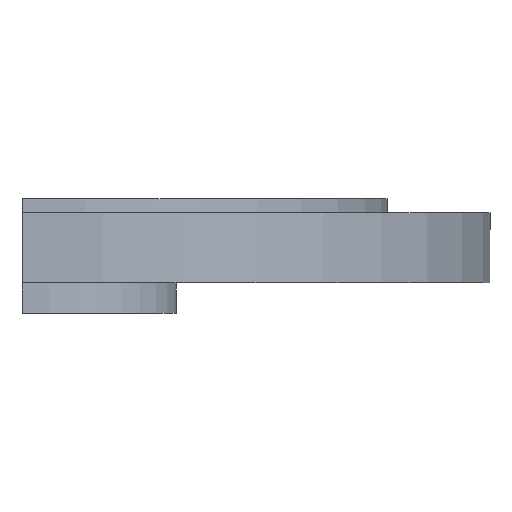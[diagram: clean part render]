
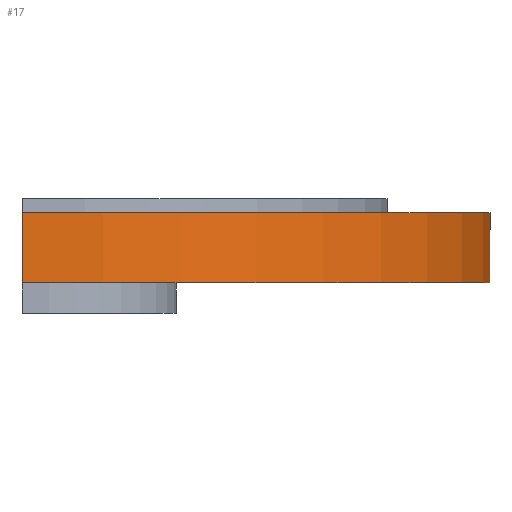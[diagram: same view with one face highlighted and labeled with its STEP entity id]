
A CAD part, front view. The second image highlights one B-rep face of the part: STEP entity #17.
In plain terms, the highlighted cylindrical face has radius 20 mm (diameter 40 mm), a partial arc.
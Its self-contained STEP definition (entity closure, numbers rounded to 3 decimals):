
#17 = ADVANCED_FACE('',(#18),#32,.T.);
#18 = FACE_BOUND('',#19,.T.);
#19 = EDGE_LOOP('',(#20,#53,#86,#112));
#20 = ORIENTED_EDGE('',*,*,#21,.T.);
#21 = EDGE_CURVE('',#22,#24,#26,.T.);
#22 = VERTEX_POINT('',#23);
#23 = CARTESIAN_POINT('',(0.,20.,-3.));
#24 = VERTEX_POINT('',#25);
#25 = CARTESIAN_POINT('',(0.,20.,0.));
#26 = SURFACE_CURVE('',#27,(#31,#42),.PCURVE_S1.);
#27 = LINE('',#28,#29);
#28 = CARTESIAN_POINT('',(0.,20.,-3.));
#29 = VECTOR('',#30,1.);
#30 = DIRECTION('',(0.,0.,1.));
#31 = PCURVE('',#32,#37);
#32 = CYLINDRICAL_SURFACE('',#33,20.);
#33 = AXIS2_PLACEMENT_3D('',#34,#35,#36);
#34 = CARTESIAN_POINT('',(0.,0.,-3.));
#35 = DIRECTION('',(0.,0.,1.));
#36 = DIRECTION('',(1.,0.,-0.));
#37 = DEFINITIONAL_REPRESENTATION('',(#38),#41);
#38 = B_SPLINE_CURVE_WITH_KNOTS('',1,(#39,#40),.UNSPECIFIED.,.F.,.F.,(2,
    2),(0.,3.),.PIECEWISE_BEZIER_KNOTS.);
#39 = CARTESIAN_POINT('',(7.854,0.));
#40 = CARTESIAN_POINT('',(7.854,3.));
#41 = ( GEOMETRIC_REPRESENTATION_CONTEXT(2) 
PARAMETRIC_REPRESENTATION_CONTEXT() REPRESENTATION_CONTEXT('2D SPACE',''
  ) );
#42 = PCURVE('',#43,#48);
#43 = PLANE('',#44);
#44 = AXIS2_PLACEMENT_3D('',#45,#46,#47);
#45 = CARTESIAN_POINT('',(0.,-50.,-50.));
#46 = DIRECTION('',(1.,0.,0.));
#47 = DIRECTION('',(0.,0.,1.));
#48 = DEFINITIONAL_REPRESENTATION('',(#49),#52);
#49 = B_SPLINE_CURVE_WITH_KNOTS('',1,(#50,#51),.UNSPECIFIED.,.F.,.F.,(2,
    2),(0.,3.),.PIECEWISE_BEZIER_KNOTS.);
#50 = CARTESIAN_POINT('',(47.,-70.));
#51 = CARTESIAN_POINT('',(50.,-70.));
#52 = ( GEOMETRIC_REPRESENTATION_CONTEXT(2) 
PARAMETRIC_REPRESENTATION_CONTEXT() REPRESENTATION_CONTEXT('2D SPACE',''
  ) );
#53 = ORIENTED_EDGE('',*,*,#54,.T.);
#54 = EDGE_CURVE('',#24,#55,#57,.T.);
#55 = VERTEX_POINT('',#56);
#56 = CARTESIAN_POINT('',(0.,-20.,0.));
#57 = SURFACE_CURVE('',#58,(#63,#70),.PCURVE_S1.);
#58 = CIRCLE('',#59,20.);
#59 = AXIS2_PLACEMENT_3D('',#60,#61,#62);
#60 = CARTESIAN_POINT('',(0.,0.,0.));
#61 = DIRECTION('',(0.,0.,-1.));
#62 = DIRECTION('',(-0.503,0.864,0.));
#63 = PCURVE('',#32,#64);
#64 = DEFINITIONAL_REPRESENTATION('',(#65),#69);
#65 = LINE('',#66,#67);
#66 = CARTESIAN_POINT('',(8.381,3.));
#67 = VECTOR('',#68,1.);
#68 = DIRECTION('',(-1.,-0.));
#69 = ( GEOMETRIC_REPRESENTATION_CONTEXT(2) 
PARAMETRIC_REPRESENTATION_CONTEXT() REPRESENTATION_CONTEXT('2D SPACE',''
  ) );
#70 = PCURVE('',#71,#76);
#71 = PLANE('',#72);
#72 = AXIS2_PLACEMENT_3D('',#73,#74,#75);
#73 = CARTESIAN_POINT('',(0.,0.,0.));
#74 = DIRECTION('',(0.,0.,1.));
#75 = DIRECTION('',(1.,0.,-0.));
#76 = DEFINITIONAL_REPRESENTATION('',(#77),#85);
#77 = ( BOUNDED_CURVE() B_SPLINE_CURVE(2,(#78,#79,#80,#81,#82,#83,#84),
.UNSPECIFIED.,.T.,.F.) B_SPLINE_CURVE_WITH_KNOTS((1,2,2,2,2,1),(
    -2.094,0.,2.094,4.189,6.283,
8.378),.UNSPECIFIED.) CURVE() GEOMETRIC_REPRESENTATION_ITEM() 
RATIONAL_B_SPLINE_CURVE((1.,0.5,1.,0.5,1.,0.5,1.)) REPRESENTATION_ITEM(
  '') );
#78 = CARTESIAN_POINT('',(-10.065,17.283));
#79 = CARTESIAN_POINT('',(19.87,34.716));
#80 = CARTESIAN_POINT('',(20.,0.075));
#81 = CARTESIAN_POINT('',(20.13,-34.566));
#82 = CARTESIAN_POINT('',(-9.935,-17.358));
#83 = CARTESIAN_POINT('',(-40.,-0.15));
#84 = CARTESIAN_POINT('',(-10.065,17.283));
#85 = ( GEOMETRIC_REPRESENTATION_CONTEXT(2) 
PARAMETRIC_REPRESENTATION_CONTEXT() REPRESENTATION_CONTEXT('2D SPACE',''
  ) );
#86 = ORIENTED_EDGE('',*,*,#87,.F.);
#87 = EDGE_CURVE('',#88,#55,#90,.T.);
#88 = VERTEX_POINT('',#89);
#89 = CARTESIAN_POINT('',(0.,-20.,-3.));
#90 = SURFACE_CURVE('',#91,(#95,#101),.PCURVE_S1.);
#91 = LINE('',#92,#93);
#92 = CARTESIAN_POINT('',(0.,-20.,-3.));
#93 = VECTOR('',#94,1.);
#94 = DIRECTION('',(0.,0.,1.));
#95 = PCURVE('',#32,#96);
#96 = DEFINITIONAL_REPRESENTATION('',(#97),#100);
#97 = B_SPLINE_CURVE_WITH_KNOTS('',1,(#98,#99),.UNSPECIFIED.,.F.,.F.,(2,
    2),(0.,3.),.PIECEWISE_BEZIER_KNOTS.);
#98 = CARTESIAN_POINT('',(4.712,0.));
#99 = CARTESIAN_POINT('',(4.712,3.));
#100 = ( GEOMETRIC_REPRESENTATION_CONTEXT(2) 
PARAMETRIC_REPRESENTATION_CONTEXT() REPRESENTATION_CONTEXT('2D SPACE',''
  ) );
#101 = PCURVE('',#102,#107);
#102 = PLANE('',#103);
#103 = AXIS2_PLACEMENT_3D('',#104,#105,#106);
#104 = CARTESIAN_POINT('',(0.,-50.,-50.));
#105 = DIRECTION('',(1.,0.,0.));
#106 = DIRECTION('',(0.,0.,1.));
#107 = DEFINITIONAL_REPRESENTATION('',(#108),#111);
#108 = B_SPLINE_CURVE_WITH_KNOTS('',1,(#109,#110),.UNSPECIFIED.,.F.,.F.,
  (2,2),(0.,3.),.PIECEWISE_BEZIER_KNOTS.);
#109 = CARTESIAN_POINT('',(47.,-30.));
#110 = CARTESIAN_POINT('',(50.,-30.));
#111 = ( GEOMETRIC_REPRESENTATION_CONTEXT(2) 
PARAMETRIC_REPRESENTATION_CONTEXT() REPRESENTATION_CONTEXT('2D SPACE',''
  ) );
#112 = ORIENTED_EDGE('',*,*,#113,.T.);
#113 = EDGE_CURVE('',#88,#22,#114,.T.);
#114 = SURFACE_CURVE('',#115,(#120,#127),.PCURVE_S1.);
#115 = CIRCLE('',#116,20.);
#116 = AXIS2_PLACEMENT_3D('',#117,#118,#119);
#117 = CARTESIAN_POINT('',(0.,0.,-3.));
#118 = DIRECTION('',(0.,0.,1.));
#119 = DIRECTION('',(-0.503,-0.864,0.));
#120 = PCURVE('',#32,#121);
#121 = DEFINITIONAL_REPRESENTATION('',(#122),#126);
#122 = LINE('',#123,#124);
#123 = CARTESIAN_POINT('',(4.185,0.));
#124 = VECTOR('',#125,1.);
#125 = DIRECTION('',(1.,0.));
#126 = ( GEOMETRIC_REPRESENTATION_CONTEXT(2) 
PARAMETRIC_REPRESENTATION_CONTEXT() REPRESENTATION_CONTEXT('2D SPACE',''
  ) );
#127 = PCURVE('',#128,#133);
#128 = PLANE('',#129);
#129 = AXIS2_PLACEMENT_3D('',#130,#131,#132);
#130 = CARTESIAN_POINT('',(0.,0.,-3.));
#131 = DIRECTION('',(0.,0.,1.));
#132 = DIRECTION('',(1.,0.,-0.));
#133 = DEFINITIONAL_REPRESENTATION('',(#134),#138);
#134 = CIRCLE('',#135,20.);
#135 = AXIS2_PLACEMENT_2D('',#136,#137);
#136 = CARTESIAN_POINT('',(0.,0.));
#137 = DIRECTION('',(-0.503,-0.864));
#138 = ( GEOMETRIC_REPRESENTATION_CONTEXT(2) 
PARAMETRIC_REPRESENTATION_CONTEXT() REPRESENTATION_CONTEXT('2D SPACE',''
  ) );
